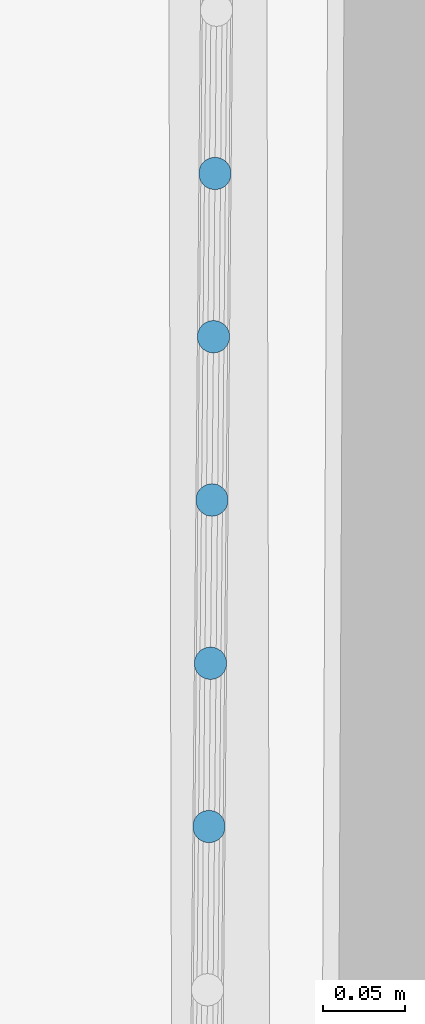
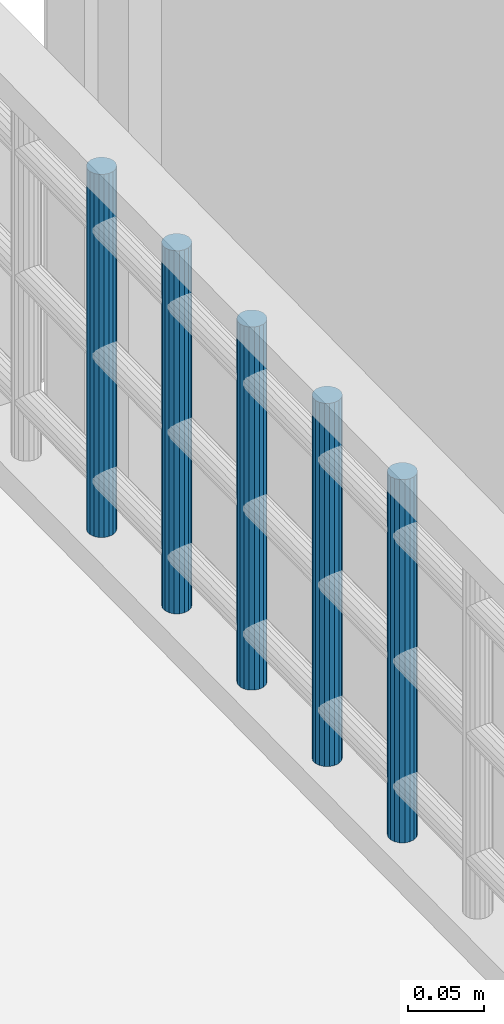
# One storey, part 34 of 72: 5 members, 1 element without a shape of its own.
"""IFC2X3 building model written with IfcOpenShell, lengths in centimetres."""

from ifc_helpers import new_model, entity, si_unit, converted_unit, direction, frame, origin, origin_with_axes, place, context, subcontext, project, spatial, faceted_brep, material, type_object, element, aggregate, save


model = new_model("IFC2X3")

# Units and contexts
model_context = context("Model", 3, precision=0.0001, world=origin(), true_north=direction((0.225632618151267, 0.974212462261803, 0.0)))
body_context = subcontext(model_context, "Body", "Model", "MODEL_VIEW")
ifc_project = project(units=[si_unit("LENGTHUNIT", "METRE", prefix="CENTI"), si_unit("AREAUNIT", "SQUARE_METRE", prefix="CENTI"), si_unit("VOLUMEUNIT", "CUBIC_METRE", prefix="CENTI"), converted_unit("PLANEANGLEUNIT", "DEGREE", entity("IfcRatioMeasure", 0.0174532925), si_unit("PLANEANGLEUNIT", "RADIAN"), dimensions=[0, 0, 0, 0, 0, 0, 0])], contexts=[model_context])

# Site, building, storey
site_placement = place(None, origin_with_axes())
site = spatial("IfcSite", under=ifc_project, at=site_placement, Name="Default Site", CompositionType="ELEMENT")
building_placement = place(site_placement, origin_with_axes())
building = spatial("IfcBuilding", under=site, at=building_placement, Name="Default Building", CompositionType="ELEMENT")
storey_placement = place(building_placement, frame((0.0, 0.0, 853.910374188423), z_axis=(0.0, 0.0, 1.0), x_axis=(1.0, 0.0, 0.0)))
storey = spatial("IfcBuildingStorey", under=building, at=storey_placement, Name="Niveau 2", CompositionType="ELEMENT", Elevation=853.910374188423)

# Assembly, members
building_element_proxy_type = type_object("IfcBuildingElementProxyType", Name="Type Object", PredefinedType="NOTDEFINED")
assembly_placement = place(storey_placement, frame((1064.66913892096, -34.4836063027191, 11.9999999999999), z_axis=(0.0, 0.0, 1.0), x_axis=(-0.00922380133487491, -0.999957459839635, 0.0)))
assembly = element("IfcElementAssembly", 1, at=assembly_placement, inside=storey, type_object=building_element_proxy_type, Name="Panneau 1702022", ObjectType="Precast panel", PredefinedType="USERDEFINED")
ifc_material = material(Name="Aluminium satiné")
member_1_placement = place(assembly_placement, frame((18.4396922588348, 0.342020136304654, 31.0000002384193), z_axis=(0.0, 0.0, 1.0), x_axis=(0.499998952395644, -0.866026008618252, 0.0)))
member_1 = element("IfcMember", 2, at=member_1_placement, material=ifc_material, Name="4294967168", context=body_context, shape_type="Brep", body=[
    faceted_brep([(2.13717932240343e-13, -4.16333634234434e-14, -3.49720252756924e-13), (-0.347296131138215, -3.05311331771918e-14, -3.49720252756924e-13), (-0.673647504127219, -0.118782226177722, -3.49720252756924e-13), (-0.939691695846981, -0.34202033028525, -3.49720252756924e-13), (-1.11333977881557, -0.642788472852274, -3.49720252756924e-13), (-1.1736467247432, -0.984808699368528, -3.49720252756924e-13), (-1.11333938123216, -1.32682953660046, -3.49720252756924e-13), (-0.939690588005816, -1.62759638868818, -3.49720252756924e-13), (-0.67364543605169, -1.85083308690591, -3.49720252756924e-13), (-0.347293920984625, -1.96961580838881, -3.49720252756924e-13), (2.21015380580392e-06, -1.96961580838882, -3.49720252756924e-13), (0.326354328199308, -1.85083229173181, -3.49720252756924e-13), (0.592398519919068, -1.62759418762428, -3.49720252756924e-13), (0.766046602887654, -1.32682604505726, -3.49720252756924e-13), (0.826353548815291, -0.984805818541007, -3.49720252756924e-13), (0.766045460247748, -0.64278627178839, -3.49720252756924e-13), (0.592396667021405, -0.34201941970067, -3.49720252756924e-13), (0.326352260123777, -0.11878143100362, -3.49720252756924e-13), (0.326352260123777, -0.11878143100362, -29.0000002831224), (0.592396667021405, -0.34201941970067, -29.0000002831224), (0.766045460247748, -0.64278627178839, -29.0000002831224), (0.826353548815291, -0.984805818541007, -29.0000002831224), (0.766046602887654, -1.32682604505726, -29.0000002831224), (0.592398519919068, -1.62759418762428, -29.0000002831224), (0.326354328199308, -1.85083229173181, -29.0000002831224), (2.21015380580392e-06, -1.96961580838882, -29.0000002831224), (-0.347293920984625, -1.96961580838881, -29.0000002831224), (-0.67364543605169, -1.85083308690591, -29.0000002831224), (-0.939690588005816, -1.62759638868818, -29.0000002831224), (-1.11333938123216, -1.32682953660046, -29.0000002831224), (-1.1736467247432, -0.984808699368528, -29.0000002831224), (-1.11333977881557, -0.642788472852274, -29.0000002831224), (-0.939691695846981, -0.34202033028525, -29.0000002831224), (-0.673647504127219, -0.118782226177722, -29.0000002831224), (-0.347296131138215, -3.05311331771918e-14, -29.0000002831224), (2.13717932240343e-13, -4.16333634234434e-14, -29.0000002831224), (0.592397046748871, -0.342018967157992, -3.49720252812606e-13), (0.592397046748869, -0.342018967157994, -29.0000002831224), (0.326352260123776, -0.118781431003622, -29.0000002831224), (0.766045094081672, -0.642786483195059, -3.49720252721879e-13), (0.76604509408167, -0.64278648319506, -29.0000002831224), (0.592396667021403, -0.342019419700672, -29.0000002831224), (0.826353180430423, -0.984805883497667, -3.49720252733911e-13), (0.826353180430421, -0.984805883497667, -29.0000002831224), (0.766045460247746, -0.64278627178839, -29.0000002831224), (0.766046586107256, -1.32682604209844, -3.49720252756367e-13), (0.766046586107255, -1.32682604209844, -29.0000002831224), (0.82635354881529, -0.984805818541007, -29.0000002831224), (0.592398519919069, -1.62759418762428, -3.49720252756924e-13), (0.592398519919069, -1.62759418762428, -29.0000002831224), (0.326354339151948, -1.85083230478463, -3.49720252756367e-13), (0.326354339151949, -1.85083230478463, -29.0000002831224), (2.01049536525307e-06, -1.96961525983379, -3.49720252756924e-13), (2.01049536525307e-06, -1.96961525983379, -29.0000002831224), (-0.34729392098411, -1.96961623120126, -3.49720252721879e-13), (-0.34729392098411, -1.96961623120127, -29.0000002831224), (-0.673645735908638, -1.85083391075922, -3.49720252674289e-13), (-0.673645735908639, -1.85083391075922, -29.0000002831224), (-0.347293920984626, -1.96961580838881, -29.0000002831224), (-0.939690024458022, -1.62759571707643, -3.4972025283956e-13), (-0.939690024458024, -1.62759571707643, -29.0000002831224), (-0.673645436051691, -1.85083308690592, -29.0000002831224), (-1.11333901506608, -1.32682932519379, -3.49720252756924e-13), (-1.11333901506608, -1.32682932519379, -29.0000002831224), (-1.17364729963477, -0.984808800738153, -3.49720252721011e-13), (-1.17364729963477, -0.984808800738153, -29.0000002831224), (-1.11333976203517, -0.64278847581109, -3.49720252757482e-13), (-1.11333976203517, -0.64278847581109, -29.0000002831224), (-0.673647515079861, -0.118782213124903, -3.49720252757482e-13), (-0.67364751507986, -0.118782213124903, -29.0000002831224), (-0.93969169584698, -0.342020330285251, -29.0000002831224), (-0.347296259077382, 3.51508642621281e-07, -3.49720252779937e-13), (-0.347296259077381, 3.51508640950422e-07, -29.0000002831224), (-0.673647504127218, -0.118782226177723, -29.0000002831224), (-3.01031164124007e-13, 4.22812416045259e-07, -3.4972025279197e-13), (-3.01031161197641e-13, 4.22812413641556e-07, -29.0000002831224), (-0.347296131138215, -3.29348365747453e-14, -29.0000002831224), (0.326352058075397, -0.11878198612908, -3.49720252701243e-13), (0.326352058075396, -0.118781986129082, -29.0000002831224), (2.12783060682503e-13, -4.42019116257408e-14, -29.0000002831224)], [[[0, 1, 2, 3, 4, 5, 6, 7, 8, 9, 10, 11, 12, 13, 14, 15, 16, 17]], [[18, 19, 20, 21, 22, 23, 24, 25, 26, 27, 28, 29, 30, 31, 32, 33, 34, 35]], [[17, 36, 37, 38]], [[16, 39, 40, 41]], [[15, 42, 43, 44]], [[14, 45, 46, 47]], [[13, 48, 49, 22]], [[12, 50, 51, 49]], [[11, 52, 53, 24]], [[10, 54, 55, 25]], [[9, 56, 57, 58]], [[8, 59, 60, 61]], [[7, 62, 63, 28]], [[6, 64, 65, 29]], [[5, 66, 67, 30]], [[4, 3, 32, 31]], [[3, 68, 69, 70]], [[2, 71, 72, 73]], [[1, 74, 75, 76]], [[0, 77, 78, 79]]]),
])
member_2_placement = place(assembly_placement, frame((28.4396916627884, 0.342020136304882, 31.0000002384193), z_axis=(0.0, 0.0, 1.0), x_axis=(0.499995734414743, -0.866027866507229, 0.0)))
member_2 = element("IfcMember", 3, at=member_2_placement, material=ifc_material, Name="4294967167", context=body_context, shape_type="Brep", body=[
    faceted_brep([(2.41473507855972e-13, -2.22044604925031e-14, -1.77635683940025e-13), (-0.347295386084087, -9.15933995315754e-14, -1.77635683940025e-13), (-0.673647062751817, -0.118784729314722, -1.77635683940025e-13), (-0.939691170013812, -0.342025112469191, -1.77635683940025e-13), (-1.11333739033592, -0.642792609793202, -1.77635683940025e-13), (-1.17364232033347, -0.984811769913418, -1.77635683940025e-13), (-1.1133337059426, -1.3268323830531, -1.77635683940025e-13), (-0.939684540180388, -1.62759988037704, -1.77635683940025e-13), (-0.673639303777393, -1.85083688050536, -1.77635683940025e-13), (-0.347286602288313, -1.96961709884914, -1.77635683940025e-13), (1.0273899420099e-05, -1.9696145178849, -1.77635683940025e-13), (0.326361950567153, -1.85082978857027, -1.77635683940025e-13), (0.592404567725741, -1.62759198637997, -1.77635683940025e-13), (0.766050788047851, -1.32682448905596, -1.77635683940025e-13), (0.826357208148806, -0.984802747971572, -1.77635683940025e-13), (0.766048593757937, -0.64278213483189, -1.77635683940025e-13), (0.592397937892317, -0.342017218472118, -1.77635683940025e-13), (0.326352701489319, -0.1187802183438, -1.77635683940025e-13), (0.326352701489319, -0.1187802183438, -29.0000002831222), (0.592397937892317, -0.342017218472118, -29.0000002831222), (0.766048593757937, -0.64278213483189, -29.0000002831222), (0.826357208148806, -0.984802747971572, -29.0000002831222), (0.766050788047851, -1.32682448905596, -29.0000002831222), (0.592404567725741, -1.62759198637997, -29.0000002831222), (0.326361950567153, -1.85082978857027, -29.0000002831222), (1.0273899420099e-05, -1.9696145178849, -29.0000002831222), (-0.347286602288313, -1.96961709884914, -29.0000002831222), (-0.673639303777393, -1.85083688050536, -29.0000002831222), (-0.939684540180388, -1.62759988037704, -29.0000002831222), (-1.1133337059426, -1.3268323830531, -29.0000002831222), (-1.17364232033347, -0.984811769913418, -29.0000002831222), (-1.11333739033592, -0.642792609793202, -29.0000002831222), (-0.939691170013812, -0.342025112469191, -29.0000002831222), (-0.673647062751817, -0.118784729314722, -29.0000002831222), (-0.347295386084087, -9.15933995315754e-14, -29.0000002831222), (2.41473507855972e-13, -2.22044604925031e-14, -29.0000002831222), (0.592398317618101, -0.342016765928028, -1.77635683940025e-13), (0.592398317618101, -0.342016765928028, -29.0000002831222), (0.766047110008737, -0.642782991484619, -1.77635683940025e-13), (0.766047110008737, -0.642782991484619, -29.0000002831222), (0.826357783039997, -0.984802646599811, -1.77635683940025e-13), (0.826357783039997, -0.984802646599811, -29.0000002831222), (0.766051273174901, -1.32682457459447, -1.77635683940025e-13), (0.766051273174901, -1.32682457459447, -29.0000002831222), (0.592404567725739, -1.62759198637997, -1.77635683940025e-13), (0.592404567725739, -1.62759198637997, -29.0000002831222), (0.326362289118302, -1.85083019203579, -1.77635683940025e-13), (0.326362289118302, -1.85083019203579, -29.0000002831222), (1.00742389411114e-05, -1.96961396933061, -1.77635683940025e-13), (1.00742389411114e-05, -1.96961396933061, -29.0000002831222), (-0.347286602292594, -1.96961623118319, -1.77635683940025e-13), (-0.347286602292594, -1.96961623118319, -29.0000002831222), (-0.673639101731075, -1.85083632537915, -1.77635683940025e-13), (-0.673639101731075, -1.85083632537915, -29.0000002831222), (-0.939684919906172, -1.62760033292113, -1.77635683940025e-13), (-0.939684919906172, -1.62760033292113, -29.0000002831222), (-1.11333445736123, -1.32683281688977, -1.77635683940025e-13), (-1.11333445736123, -1.32683281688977, -29.0000002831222), (-1.17364289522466, -0.98481187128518, -1.77635683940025e-13), (-1.17364289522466, -0.98481187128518, -29.0000002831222), (-1.11333687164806, -0.642792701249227, -1.77635683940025e-13), (-1.11333687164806, -0.642792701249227, -29.0000002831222), (-0.93969117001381, -0.342025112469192, -1.77635683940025e-13), (-0.93969117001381, -0.342025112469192, -29.0000002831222), (-0.673646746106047, -0.118785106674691, -1.77635683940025e-13), (-0.673646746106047, -0.118785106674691, -29.0000002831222), (-0.347295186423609, -5.48554380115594e-07, -1.77635683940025e-13), (-0.347295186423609, -5.48554380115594e-07, -29.0000002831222), (-8.21059878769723e-12, 1.71329084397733e-06, -1.77635683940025e-13), (-8.21059878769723e-12, 1.71329084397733e-06, -29.0000002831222), (0.326352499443, -0.118780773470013, -1.77635683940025e-13), (0.326352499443, -0.118780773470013, -29.0000002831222)], [[[0, 1, 2, 3, 4, 5, 6, 7, 8, 9, 10, 11, 12, 13, 14, 15, 16, 17]], [[18, 19, 20, 21, 22, 23, 24, 25, 26, 27, 28, 29, 30, 31, 32, 33, 34, 35]], [[17, 36, 37, 18]], [[16, 38, 39, 19]], [[15, 40, 41, 20]], [[14, 42, 43, 21]], [[13, 44, 45, 22]], [[12, 46, 47, 23]], [[11, 48, 49, 24]], [[10, 50, 51, 25]], [[9, 52, 53, 26]], [[8, 54, 55, 27]], [[7, 56, 57, 28]], [[6, 58, 59, 29]], [[5, 60, 61, 30]], [[4, 62, 63, 31]], [[3, 64, 65, 32]], [[2, 66, 67, 33]], [[1, 68, 69, 34]], [[0, 70, 71, 35]]]),
])
member_3_placement = place(assembly_placement, frame((38.4396940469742, 0.342020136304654, 31.0000002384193), z_axis=(0.0, 0.0, 1.0), x_axis=(0.500002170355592, -0.866024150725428, 0.0)))
member_3 = element("IfcMember", 4, at=member_3_placement, material=ifc_material, Name="4294967166", context=body_context, shape_type="Brep", body=[
    faceted_brep([(4.44089209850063e-14, -1.55431223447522e-13, -1.77635683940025e-13), (-0.347296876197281, -1.60982338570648e-13, -1.77635683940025e-13), (-0.673649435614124, -0.118782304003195, -1.77635683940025e-13), (-0.939693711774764, -0.342018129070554, -1.77635683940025e-13), (-1.11334365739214, -0.642786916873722, -1.77635683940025e-13), (-1.17365112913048, -0.984805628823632, -1.77635683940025e-13), (-1.11334505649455, -1.32682669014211, -1.77635683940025e-13), (-0.939698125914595, -1.62759547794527, -1.77635683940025e-13), (-0.673653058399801, -1.85083187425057, -1.77635683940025e-13), (-0.347302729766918, -1.9696170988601, -1.77635683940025e-13), (-5.85356959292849e-06, -1.9696170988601, -1.77635683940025e-13), (0.32634670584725, -1.85083479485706, -1.77635683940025e-13), (0.59239098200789, -1.62759896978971, -1.77635683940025e-13), (0.766040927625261, -1.32683018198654, -1.77635683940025e-13), (0.826348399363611, -0.984811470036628, -1.77635683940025e-13), (0.766042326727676, -0.642790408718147, -1.77635683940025e-13), (0.592395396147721, -0.34202162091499, -1.77635683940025e-13), (0.326350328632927, -0.118785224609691, -1.77635683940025e-13), (0.326350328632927, -0.118785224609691, -29.0000002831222), (0.592395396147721, -0.34202162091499, -29.0000002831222), (0.766042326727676, -0.642790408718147, -29.0000002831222), (0.826348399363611, -0.984811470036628, -29.0000002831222), (0.766040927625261, -1.32683018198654, -29.0000002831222), (0.59239098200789, -1.62759896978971, -29.0000002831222), (0.32634670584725, -1.85083479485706, -29.0000002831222), (-5.85356959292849e-06, -1.9696170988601, -29.0000002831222), (-0.347302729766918, -1.9696170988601, -29.0000002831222), (-0.673653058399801, -1.85083187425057, -29.0000002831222), (-0.939698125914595, -1.62759547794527, -29.0000002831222), (-1.11334505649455, -1.32682669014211, -29.0000002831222), (-1.17365112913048, -0.984805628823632, -29.0000002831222), (-1.11334365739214, -0.642786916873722, -29.0000002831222), (-0.939693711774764, -0.342018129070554, -29.0000002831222), (-0.673649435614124, -0.118782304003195, -29.0000002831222), (-0.347296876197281, -1.60982338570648e-13, -29.0000002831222), (4.44089209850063e-14, -1.55431223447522e-13, -29.0000002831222), (0.592393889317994, -0.342023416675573, -1.77635683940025e-13), (0.592393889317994, -0.342023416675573, -29.0000002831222), (0.766043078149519, -0.642789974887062, -1.77635683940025e-13), (0.766043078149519, -0.642789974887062, -29.0000002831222), (0.826348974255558, -0.984811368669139, -1.77635683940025e-13), (0.826348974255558, -0.984811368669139, -29.0000002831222), (0.766040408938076, -1.32683009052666, -1.77635683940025e-13), (0.766040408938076, -1.32683009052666, -29.0000002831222), (0.592390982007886, -1.6275989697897, -1.77635683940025e-13), (0.592390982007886, -1.6275989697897, -29.0000002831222), (0.326347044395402, -1.8508351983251, -1.77635683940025e-13), (0.326347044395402, -1.8508351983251, -29.0000002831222), (-6.05322599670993e-06, -1.96961655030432, -1.77635683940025e-13), (-6.05322599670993e-06, -1.96961655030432, -29.0000002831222), (-0.347302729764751, -1.96961623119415, -1.77635683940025e-13), (-0.347302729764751, -1.96961623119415, -29.0000002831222), (-0.673653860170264, -1.85083407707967, -1.77635683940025e-13), (-0.673653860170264, -1.85083407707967, -29.0000002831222), (-0.939696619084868, -1.62759368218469, -1.77635683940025e-13), (-0.939696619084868, -1.62759368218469, -29.0000002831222), (-1.11334580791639, -1.3268271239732, -1.77635683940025e-13), (-1.11334580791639, -1.3268271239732, -29.0000002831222), (-1.17365170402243, -0.984805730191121, -1.77635683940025e-13), (-1.17365170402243, -0.984805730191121, -29.0000002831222), (-1.11334313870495, -0.642787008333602, -1.77635683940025e-13), (-1.11334313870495, -0.642787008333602, -29.0000002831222), (-0.93969371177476, -0.342018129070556, -1.77635683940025e-13), (-0.93969371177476, -0.342018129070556, -29.0000002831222), (-0.673649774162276, -0.118781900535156, -1.77635683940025e-13), (-0.673649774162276, -0.118781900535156, -29.0000002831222), (-0.347296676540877, -5.48555938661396e-07, -1.77635683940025e-13), (-0.347296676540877, -5.48555938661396e-07, -29.0000002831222), (-2.12331629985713e-12, -8.67666106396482e-07, -1.77635683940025e-13), (-2.12331629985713e-12, -8.67666106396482e-07, -29.0000002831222), (0.32635113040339, -0.118783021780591, -1.77635683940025e-13), (0.32635113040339, -0.118783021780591, -29.0000002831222)], [[[0, 1, 2, 3, 4, 5, 6, 7, 8, 9, 10, 11, 12, 13, 14, 15, 16, 17]], [[18, 19, 20, 21, 22, 23, 24, 25, 26, 27, 28, 29, 30, 31, 32, 33, 34, 35]], [[17, 36, 37, 18]], [[16, 38, 39, 19]], [[15, 40, 41, 20]], [[14, 42, 43, 21]], [[13, 44, 45, 22]], [[12, 46, 47, 23]], [[11, 48, 49, 24]], [[10, 50, 51, 25]], [[9, 52, 53, 26]], [[8, 54, 55, 27]], [[7, 56, 57, 28]], [[6, 58, 59, 29]], [[5, 60, 61, 30]], [[4, 62, 63, 31]], [[3, 64, 65, 32]], [[2, 66, 67, 33]], [[1, 68, 69, 34]], [[0, 70, 71, 35]]]),
])
member_4_placement = place(assembly_placement, frame((48.4396934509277, 0.342020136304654, 31.0000002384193), z_axis=(0.0, 0.0, 1.0), x_axis=(0.500002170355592, -0.866024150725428, 0.0)))
member_4 = element("IfcMember", 5, at=member_4_placement, material=ifc_material, Name="4294967165", context=body_context, shape_type="Brep", body=[
    faceted_brep([(1.58206781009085e-13, -1.16573417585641e-13, -1.77635683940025e-13), (-0.347296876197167, -1.27675647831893e-13, -1.77635683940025e-13), (-0.673649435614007, -0.118782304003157, -1.77635683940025e-13), (-0.939693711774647, -0.34201812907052, -1.77635683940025e-13), (-1.11334216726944, -0.642784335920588, -1.77635683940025e-13), (-1.17365112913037, -0.984805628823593, -1.77635683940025e-13), (-1.11334505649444, -1.32682669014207, -1.77635683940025e-13), (-0.939696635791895, -1.62759289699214, -1.77635683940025e-13), (-0.673653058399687, -1.85083187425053, -1.77635683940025e-13), (-0.347301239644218, -1.96961451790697, -1.77635683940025e-13), (-5.85356947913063e-06, -1.96961709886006, -1.77635683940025e-13), (0.326346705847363, -1.85083479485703, -1.77635683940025e-13), (0.59239247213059, -1.62759638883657, -1.77635683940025e-13), (0.766040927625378, -1.3268301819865, -1.77635683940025e-13), (0.826348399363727, -0.98481147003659, -1.77635683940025e-13), (0.766042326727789, -0.642790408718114, -1.77635683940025e-13), (0.592395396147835, -0.342021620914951, -1.77635683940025e-13), (0.32635181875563, -0.118782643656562, -1.77635683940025e-13), (0.32635181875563, -0.118782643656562, -29.0000002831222), (0.592395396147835, -0.342021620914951, -29.0000002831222), (0.766042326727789, -0.642790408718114, -29.0000002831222), (0.826348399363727, -0.98481147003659, -29.0000002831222), (0.766040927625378, -1.3268301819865, -29.0000002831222), (0.59239247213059, -1.62759638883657, -29.0000002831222), (0.326346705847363, -1.85083479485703, -29.0000002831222), (-5.85356947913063e-06, -1.96961709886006, -29.0000002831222), (-0.347301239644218, -1.96961451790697, -29.0000002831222), (-0.673653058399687, -1.85083187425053, -29.0000002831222), (-0.939696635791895, -1.62759289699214, -29.0000002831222), (-1.11334505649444, -1.32682669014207, -29.0000002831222), (-1.17365112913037, -0.984805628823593, -29.0000002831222), (-1.11334216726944, -0.642784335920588, -29.0000002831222), (-0.939693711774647, -0.34201812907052, -29.0000002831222), (-0.673649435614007, -0.118782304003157, -29.0000002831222), (-0.347296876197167, -1.27675647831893e-13, -29.0000002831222), (1.58206781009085e-13, -1.16573417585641e-13, -29.0000002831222), (0.592395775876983, -0.342021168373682, -1.77635683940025e-13), (0.592395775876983, -0.342021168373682, -29.0000002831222), (0.766043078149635, -0.642789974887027, -1.77635683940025e-13), (0.766043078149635, -0.642789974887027, -29.0000002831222), (0.826348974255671, -0.984811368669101, -1.77635683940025e-13), (0.826348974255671, -0.984811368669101, -29.0000002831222), (0.766040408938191, -1.32683009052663, -1.77635683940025e-13), (0.766040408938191, -1.32683009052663, -29.0000002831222), (0.592392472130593, -1.62759638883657, -1.77635683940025e-13), (0.592392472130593, -1.62759638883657, -29.0000002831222), (0.326346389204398, -1.8508344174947, -1.77635683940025e-13), (0.326346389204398, -1.8508344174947, -29.0000002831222), (-6.05322588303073e-06, -1.96961655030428, -1.77635683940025e-13), (-6.05322588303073e-06, -1.96961655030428, -29.0000002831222), (-0.347301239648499, -1.96961623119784, -1.77635683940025e-13), (-0.347301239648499, -1.96961623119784, -29.0000002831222), (-0.673652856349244, -1.85083131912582, -1.77635683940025e-13), (-0.673652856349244, -1.85083131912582, -29.0000002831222), (-0.939697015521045, -1.62759334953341, -1.77635683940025e-13), (-0.939697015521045, -1.62759334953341, -29.0000002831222), (-1.11334357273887, -1.32682583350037, -1.77635683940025e-13), (-1.11334357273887, -1.32682583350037, -29.0000002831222), (-1.17365170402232, -0.984805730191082, -1.77635683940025e-13), (-1.17365170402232, -0.984805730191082, -29.0000002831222), (-1.11334265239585, -0.642784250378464, -1.77635683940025e-13), (-1.11334265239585, -0.642784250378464, -29.0000002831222), (-0.93969371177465, -0.342018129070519, -1.77635683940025e-13), (-0.93969371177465, -0.342018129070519, -29.0000002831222), (-0.673649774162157, -0.11878190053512, -1.77635683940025e-13), (-0.673649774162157, -0.11878190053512, -29.0000002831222), (-0.347296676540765, -5.48555901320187e-07, -1.77635683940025e-13), (-0.347296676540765, -5.48555901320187e-07, -29.0000002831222), (-2.00951845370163e-12, -8.67666073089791e-07, -1.77635683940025e-13), (-2.00951845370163e-12, -8.67666073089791e-07, -29.0000002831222), (0.326351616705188, -0.118783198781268, -1.77635683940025e-13), (0.326351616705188, -0.118783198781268, -29.0000002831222)], [[[0, 1, 2, 3, 4, 5, 6, 7, 8, 9, 10, 11, 12, 13, 14, 15, 16, 17]], [[18, 19, 20, 21, 22, 23, 24, 25, 26, 27, 28, 29, 30, 31, 32, 33, 34, 35]], [[17, 36, 37, 18]], [[16, 38, 39, 19]], [[15, 40, 41, 20]], [[14, 42, 43, 21]], [[13, 44, 45, 22]], [[12, 46, 47, 23]], [[11, 48, 49, 24]], [[10, 50, 51, 25]], [[9, 52, 53, 26]], [[8, 54, 55, 27]], [[7, 56, 57, 28]], [[6, 58, 59, 29]], [[5, 60, 61, 30]], [[4, 62, 63, 31]], [[3, 64, 65, 32]], [[2, 66, 67, 33]], [[1, 68, 69, 34]], [[0, 70, 71, 35]]]),
])
member_5_placement = place(assembly_placement, frame((58.4396898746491, 0.342020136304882, 31.0000002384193), z_axis=(0.0, 0.0, 1.0), x_axis=(0.499995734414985, -0.86602786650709, 0.0)))
member_5 = element("IfcMember", 6, at=member_5_placement, material=ifc_material, Name="4294967164", context=body_context, shape_type="Brep", body=[
    faceted_brep([(2.88657986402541e-13, -3.10862446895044e-13, -1.72084568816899e-13), (-0.347295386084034, -2.77555756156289e-13, -1.72084568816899e-13), (-0.673647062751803, -0.118784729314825, -1.72084568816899e-13), (-0.939688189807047, -0.342019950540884, -1.72084568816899e-13), (-1.11333590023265, -0.64279002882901, -1.72084568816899e-13), (-1.1736423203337, -0.98481176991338, -1.72084568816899e-13), (-1.11333370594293, -1.32683238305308, -1.72084568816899e-13), (-0.939683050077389, -1.6275972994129, -1.72084568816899e-13), (-0.673637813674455, -1.85083429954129, -1.72084568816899e-13), (-0.347285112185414, -1.96961451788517, -1.72084568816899e-13), (1.02738989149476e-05, -1.96961451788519, -1.72084568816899e-13), (0.326361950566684, -1.85082978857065, -1.72084568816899e-13), (0.592406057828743, -1.62758940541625, -1.72084568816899e-13), (0.766053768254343, -1.32681932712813, -1.72084568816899e-13), (0.826357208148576, -0.984802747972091, -1.72084568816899e-13), (0.766048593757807, -0.642782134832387, -1.72084568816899e-13), (0.592397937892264, -0.342017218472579, -1.72084568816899e-13), (0.326352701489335, -0.118780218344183, -1.72084568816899e-13), (0.326352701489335, -0.118780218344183, -29.0000002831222), (0.592397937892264, -0.342017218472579, -29.0000002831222), (0.766048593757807, -0.642782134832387, -29.0000002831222), (0.826357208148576, -0.984802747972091, -29.0000002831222), (0.766053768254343, -1.32681932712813, -29.0000002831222), (0.592406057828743, -1.62758940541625, -29.0000002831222), (0.326361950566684, -1.85082978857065, -29.0000002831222), (1.02738989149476e-05, -1.96961451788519, -29.0000002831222), (-0.347285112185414, -1.96961451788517, -29.0000002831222), (-0.673637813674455, -1.85083429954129, -29.0000002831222), (-0.939683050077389, -1.6275972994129, -29.0000002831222), (-1.11333370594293, -1.32683238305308, -29.0000002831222), (-1.1736423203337, -0.98481176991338, -29.0000002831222), (-1.11333590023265, -0.64279002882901, -29.0000002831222), (-0.939688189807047, -0.342019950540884, -29.0000002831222), (-0.673647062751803, -0.118784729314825, -29.0000002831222), (-0.347295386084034, -2.77555756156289e-13, -29.0000002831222), (2.88657986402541e-13, -3.10862446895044e-13, -29.0000002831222), (0.592398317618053, -0.342016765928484, -1.72084568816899e-13), (0.592398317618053, -0.342016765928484, -29.0000002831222), (0.766047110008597, -0.642782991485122, -1.72084568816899e-13), (0.766047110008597, -0.642782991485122, -29.0000002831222), (0.826357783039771, -0.984802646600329, -1.72084568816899e-13), (0.826357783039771, -0.984802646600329, -29.0000002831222), (0.76605224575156, -1.32681905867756, -1.72084568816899e-13), (0.76605224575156, -1.32681905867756, -29.0000002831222), (0.592406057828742, -1.62758940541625, -1.72084568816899e-13), (0.592406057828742, -1.62758940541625, -29.0000002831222), (0.326361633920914, -1.85082941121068, -1.72084568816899e-13), (0.326361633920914, -1.85082941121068, -29.0000002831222), (1.00742384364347e-05, -1.9696139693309, -1.72084568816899e-13), (1.00742384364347e-05, -1.9696139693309, -29.0000002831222), (-0.347285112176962, -1.96961623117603, -1.72084568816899e-13), (-0.347285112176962, -1.96961623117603, -29.0000002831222), (-0.673637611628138, -1.85083374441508, -1.72084568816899e-13), (-0.673637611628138, -1.85083374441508, -29.0000002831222), (-0.939683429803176, -1.62759775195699, -1.72084568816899e-13), (-0.939683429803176, -1.62759775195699, -29.0000002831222), (-1.11333222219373, -1.32683152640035, -1.72084568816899e-13), (-1.11333222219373, -1.32683152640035, -29.0000002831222), (-1.17364289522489, -0.984811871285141, -1.72084568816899e-13), (-1.17364289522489, -0.984811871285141, -29.0000002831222), (-1.11333638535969, -0.642789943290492, -1.72084568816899e-13), (-1.11333638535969, -0.642789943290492, -29.0000002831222), (-0.939688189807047, -0.342019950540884, -1.72084568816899e-13), (-0.939688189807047, -0.342019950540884, -29.0000002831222), (-0.673648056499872, -0.118783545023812, -1.72084568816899e-13), (-0.673648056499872, -0.118783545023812, -29.0000002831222), (-0.347295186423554, -5.48554571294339e-07, -1.72084568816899e-13), (-0.347295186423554, -5.48554571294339e-07, -29.0000002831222), (-8.16341385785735e-12, 1.71329056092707e-06, -1.72084568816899e-13), (-8.16341385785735e-12, 1.71329056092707e-06, -29.0000002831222), (0.326352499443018, -0.118780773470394, -1.72084568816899e-13), (0.326352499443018, -0.118780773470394, -29.0000002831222)], [[[0, 1, 2, 3, 4, 5, 6, 7, 8, 9, 10, 11, 12, 13, 14, 15, 16, 17]], [[18, 19, 20, 21, 22, 23, 24, 25, 26, 27, 28, 29, 30, 31, 32, 33, 34, 35]], [[17, 36, 37, 18]], [[16, 38, 39, 19]], [[15, 40, 41, 20]], [[14, 42, 43, 21]], [[13, 44, 45, 22]], [[12, 46, 47, 23]], [[11, 48, 49, 24]], [[10, 50, 51, 25]], [[9, 52, 53, 26]], [[8, 54, 55, 27]], [[7, 56, 57, 28]], [[6, 58, 59, 29]], [[5, 60, 61, 30]], [[4, 62, 63, 31]], [[3, 64, 65, 32]], [[2, 66, 67, 33]], [[1, 68, 69, 34]], [[0, 70, 71, 35]]]),
])
aggregate(assembly, [member_1, member_2, member_3, member_4, member_5])

save(model, "model.ifc")
